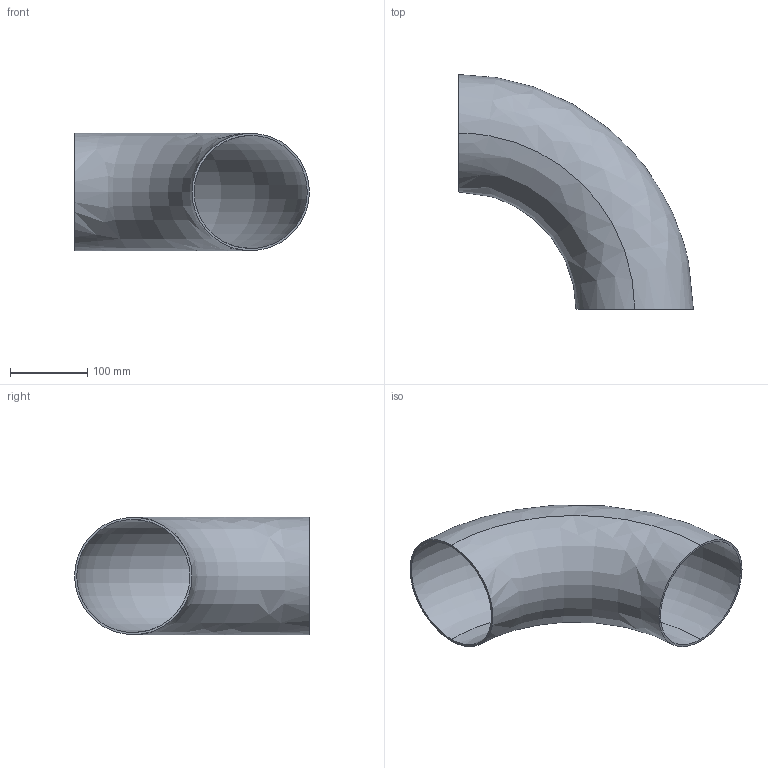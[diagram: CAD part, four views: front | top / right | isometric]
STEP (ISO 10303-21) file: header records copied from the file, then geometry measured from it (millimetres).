
FILE_DESCRIPTION (( 'STEP AP203' ), '1' );
FILE_NAME ('2WCL6.0.STEP', '2018-04-30T15:21:15', ( 'vneprd' ), ( 'Microsoft' ), 'SwSTEP 2.0', 'SolidWorks 2014', '' );
FILE_SCHEMA (( 'CONFIG_CONTROL_DESIGN' ));
Length unit declared in the file: inch
Products named in the file (1): 2WCL6.0
Bounding box: 304.8 x 304.8 x 152.4 mm (x, y, z)
Volume: 467353.5 mm3; surface area: 340177.4 mm2
Topology: 1 solids, 1 shells, 6 faces, 12 edges, 8 vertices
Faces by surface type: bspline 4, plane 2
Entity records: 13208 total; most frequent: CARTESIAN_POINT 13022, ORIENTED_EDGE 24, DIRECTION 14, EDGE_CURVE 12, PERSON_AND_ORGANIZATION 8, VERTEX_POINT 8, B_SPLINE_CURVE_WITH_KNOTS 8, EDGE_LOOP 8
